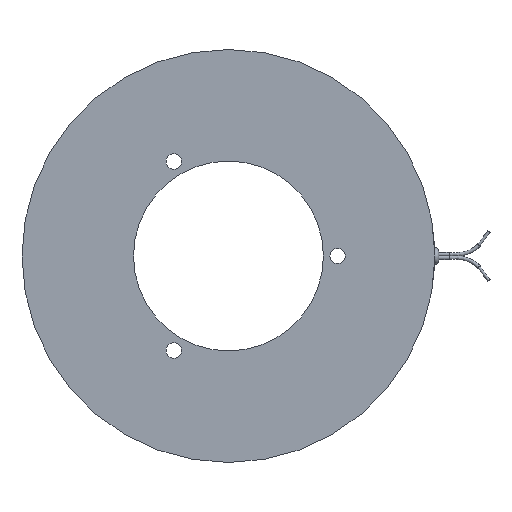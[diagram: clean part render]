
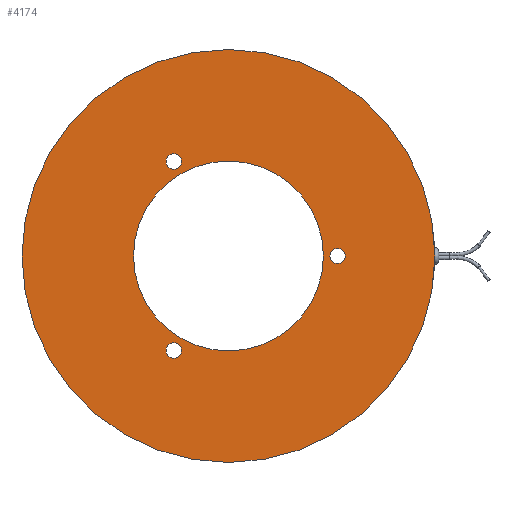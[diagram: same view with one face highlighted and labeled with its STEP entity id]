
A CAD part, left-side view. The second image highlights one B-rep face of the part: STEP entity #4174.
In plain terms, the highlighted planar face has unit normal (-1, 0, 0).
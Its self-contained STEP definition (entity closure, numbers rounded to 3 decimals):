
#96=FACE_BOUND('',#593,.T.);
#97=FACE_BOUND('',#594,.T.);
#98=FACE_BOUND('',#595,.T.);
#99=FACE_BOUND('',#596,.T.);
#144=PLANE('',#4805);
#328=FACE_OUTER_BOUND('',#592,.T.);
#592=EDGE_LOOP('',(#3515,#3516));
#593=EDGE_LOOP('',(#3517));
#594=EDGE_LOOP('',(#3518));
#595=EDGE_LOOP('',(#3519));
#596=EDGE_LOOP('',(#3520,#3521));
#658=CIRCLE('',#4242,87.);
#659=CIRCLE('',#4243,87.);
#1053=CIRCLE('',#4806,3.25);
#1054=CIRCLE('',#4807,3.25);
#1055=CIRCLE('',#4808,3.25);
#1056=CIRCLE('',#4809,40.);
#1057=CIRCLE('',#4810,40.);
#1421=VERTEX_POINT('',#6383);
#1422=VERTEX_POINT('',#6384);
#1786=VERTEX_POINT('',#7590);
#1787=VERTEX_POINT('',#7592);
#1788=VERTEX_POINT('',#7594);
#1789=VERTEX_POINT('',#7596);
#1790=VERTEX_POINT('',#7597);
#1845=EDGE_CURVE('',#1421,#1422,#658,.T.);
#1846=EDGE_CURVE('',#1422,#1421,#659,.T.);
#2386=EDGE_CURVE('',#1786,#1786,#1053,.T.);
#2387=EDGE_CURVE('',#1787,#1787,#1054,.T.);
#2388=EDGE_CURVE('',#1788,#1788,#1055,.T.);
#2389=EDGE_CURVE('',#1789,#1790,#1056,.T.);
#2390=EDGE_CURVE('',#1790,#1789,#1057,.T.);
#3515=ORIENTED_EDGE('',*,*,#1845,.T.);
#3516=ORIENTED_EDGE('',*,*,#1846,.T.);
#3517=ORIENTED_EDGE('',*,*,#2386,.T.);
#3518=ORIENTED_EDGE('',*,*,#2387,.T.);
#3519=ORIENTED_EDGE('',*,*,#2388,.T.);
#3520=ORIENTED_EDGE('',*,*,#2389,.F.);
#3521=ORIENTED_EDGE('',*,*,#2390,.F.);
#4174=ADVANCED_FACE('',(#328,#96,#97,#98,#99),#144,.T.);
#4242=AXIS2_PLACEMENT_3D('',#6385,#4916,#4917);
#4243=AXIS2_PLACEMENT_3D('',#6386,#4918,#4919);
#4805=AXIS2_PLACEMENT_3D('',#7589,#6177,#6178);
#4806=AXIS2_PLACEMENT_3D('',#7591,#6179,#6180);
#4807=AXIS2_PLACEMENT_3D('',#7593,#6181,#6182);
#4808=AXIS2_PLACEMENT_3D('',#7595,#6183,#6184);
#4809=AXIS2_PLACEMENT_3D('',#7598,#6185,#6186);
#4810=AXIS2_PLACEMENT_3D('',#7599,#6187,#6188);
#4916=DIRECTION('center_axis',(-1.,0.,0.));
#4917=DIRECTION('ref_axis',(0.,0.,
1.));
#4918=DIRECTION('center_axis',(-1.,0.,0.));
#4919=DIRECTION('ref_axis',(0.,0.,
1.));
#6177=DIRECTION('center_axis',(-1.,0.,0.));
#6178=DIRECTION('ref_axis',(0.,-1.,0.));
#6179=DIRECTION('center_axis',(1.,0.,0.));
#6180=DIRECTION('ref_axis',(0.,1.,0.));
#6181=DIRECTION('center_axis',(1.,0.,0.));
#6182=DIRECTION('ref_axis',(0.,1.,0.));
#6183=DIRECTION('center_axis',(1.,0.,0.));
#6184=DIRECTION('ref_axis',(0.,1.,0.));
#6185=DIRECTION('center_axis',(-1.,0.,0.));
#6186=DIRECTION('ref_axis',(0.,0.,
1.));
#6187=DIRECTION('center_axis',(-1.,0.,0.));
#6188=DIRECTION('ref_axis',(0.,0.,
1.));
#6383=CARTESIAN_POINT('',(-31.925,0.,87.));
#6384=CARTESIAN_POINT('',(-31.925,0.,-87.));
#6385=CARTESIAN_POINT('Origin',(-31.925,0.,
0.));
#6386=CARTESIAN_POINT('Origin',(-31.925,0.,
0.));
#7589=CARTESIAN_POINT('Origin',(-31.925,0.,
63.5));
#7590=CARTESIAN_POINT('',(-31.925,19.75,-39.837));
#7591=CARTESIAN_POINT('Origin',(-31.925,23.,-39.837));
#7592=CARTESIAN_POINT('',(-31.925,-49.25,0.));
#7593=CARTESIAN_POINT('Origin',(-31.925,-46.,0.));
#7594=CARTESIAN_POINT('',(-31.925,19.75,39.837));
#7595=CARTESIAN_POINT('Origin',(-31.925,23.,39.837));
#7596=CARTESIAN_POINT('',(-31.925,0.,40.));
#7597=CARTESIAN_POINT('',(-31.925,0.,-40.));
#7598=CARTESIAN_POINT('Origin',(-31.925,0.,
0.));
#7599=CARTESIAN_POINT('Origin',(-31.925,0.,
0.));
